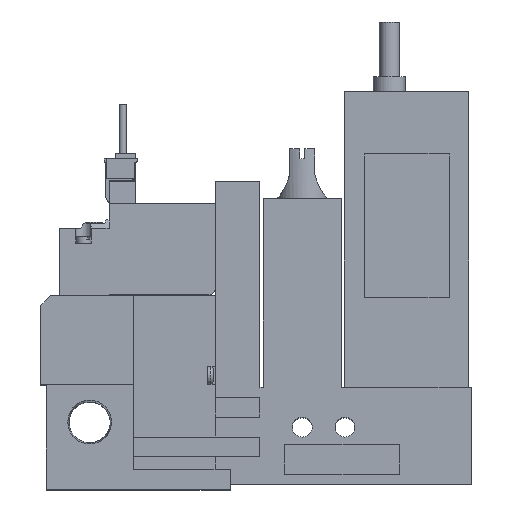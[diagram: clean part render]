
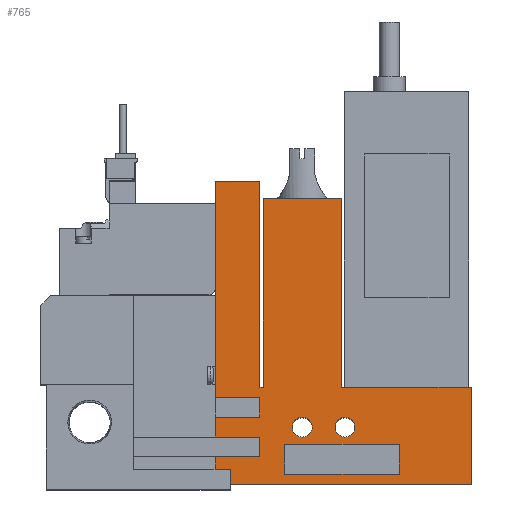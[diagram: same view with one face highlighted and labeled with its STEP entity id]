
A CAD part, top view. The second image highlights one B-rep face of the part: STEP entity #765.
In plain terms, the highlighted planar face has unit normal (0, 0, 1).
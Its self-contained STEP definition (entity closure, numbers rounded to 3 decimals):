
#765=ADVANCED_FACE('',(#1586,#1587,#1588,#1589),#1590,.T.);
#1586=FACE_OUTER_BOUND('',#2587,.T.);
#1587=FACE_BOUND('',#2588,.T.);
#1588=FACE_BOUND('',#2589,.T.);
#1589=FACE_BOUND('',#2590,.T.);
#1590=PLANE('',#2591);
#2587=EDGE_LOOP('',(#5543,#5544,#5545,#5546,#5547,#5548,#5549,#5550,#5551,#5552,#5553,#5554,#5555,#5556,#5557,#5558,#5559,#5560));
#2588=EDGE_LOOP('',(#5561,#5562,#5563,#5564));
#2589=EDGE_LOOP('',(#5565));
#2590=EDGE_LOOP('',(#5566));
#2591=AXIS2_PLACEMENT_3D('',#5567,#5568,#5569);
#5543=ORIENTED_EDGE('',*,*,#7079,.T.);
#5544=ORIENTED_EDGE('',*,*,#7111,.T.);
#5545=ORIENTED_EDGE('',*,*,#6979,.T.);
#5546=ORIENTED_EDGE('',*,*,#7108,.T.);
#5547=ORIENTED_EDGE('',*,*,#7110,.T.);
#5548=ORIENTED_EDGE('',*,*,#6983,.T.);
#5549=ORIENTED_EDGE('',*,*,#7103,.T.);
#5550=ORIENTED_EDGE('',*,*,#6995,.T.);
#5551=ORIENTED_EDGE('',*,*,#7049,.T.);
#5552=ORIENTED_EDGE('',*,*,#7058,.T.);
#5553=ORIENTED_EDGE('',*,*,#7083,.T.);
#5554=ORIENTED_EDGE('',*,*,#6943,.T.);
#5555=ORIENTED_EDGE('',*,*,#7112,.T.);
#5556=ORIENTED_EDGE('',*,*,#6951,.T.);
#5557=ORIENTED_EDGE('',*,*,#7046,.T.);
#5558=ORIENTED_EDGE('',*,*,#7009,.T.);
#5559=ORIENTED_EDGE('',*,*,#7051,.T.);
#5560=ORIENTED_EDGE('',*,*,#6929,.T.);
#5561=ORIENTED_EDGE('',*,*,#7036,.T.);
#5562=ORIENTED_EDGE('',*,*,#7109,.T.);
#5563=ORIENTED_EDGE('',*,*,#7004,.T.);
#5564=ORIENTED_EDGE('',*,*,#7106,.T.);
#5565=ORIENTED_EDGE('',*,*,#6966,.T.);
#5566=ORIENTED_EDGE('',*,*,#7101,.T.);
#5567=CARTESIAN_POINT('',(0.0,0.0,10.0));
#5568=DIRECTION('',(0.0,0.0,1.0));
#5569=DIRECTION('',(1.0,0.0,0.0));
#6929=EDGE_CURVE('',#8444,#8442,#8445,.T.);
#6943=EDGE_CURVE('',#8468,#8466,#8469,.T.);
#6951=EDGE_CURVE('',#8484,#8482,#8485,.T.);
#6966=EDGE_CURVE('',#8513,#8513,#8514,.T.);
#6979=EDGE_CURVE('',#8532,#8537,#8539,.T.);
#6983=EDGE_CURVE('',#8545,#8546,#8547,.T.);
#6995=EDGE_CURVE('',#8566,#8564,#8567,.T.);
#7004=EDGE_CURVE('',#8576,#8581,#8583,.T.);
#7009=EDGE_CURVE('',#8593,#8591,#8594,.T.);
#7036=EDGE_CURVE('',#8636,#8638,#8640,.T.);
#7046=EDGE_CURVE('',#8482,#8593,#8655,.T.);
#7049=EDGE_CURVE('',#8564,#8658,#8660,.T.);
#7051=EDGE_CURVE('',#8591,#8444,#8662,.T.);
#7058=EDGE_CURVE('',#8658,#8673,#8675,.T.);
#7079=EDGE_CURVE('',#8442,#8703,#8705,.T.);
#7083=EDGE_CURVE('',#8673,#8468,#8710,.T.);
#7101=EDGE_CURVE('',#8734,#8734,#8735,.T.);
#7103=EDGE_CURVE('',#8546,#8566,#8737,.T.);
#7106=EDGE_CURVE('',#8581,#8636,#8741,.T.);
#7108=EDGE_CURVE('',#8537,#8742,#8744,.T.);
#7109=EDGE_CURVE('',#8638,#8576,#8745,.T.);
#7110=EDGE_CURVE('',#8742,#8545,#8746,.T.);
#7111=EDGE_CURVE('',#8703,#8532,#8747,.T.);
#7112=EDGE_CURVE('',#8466,#8484,#8748,.T.);
#8442=VERTEX_POINT('',#10852);
#8444=VERTEX_POINT('',#10855);
#8445=LINE('',#10856,#10857);
#8466=VERTEX_POINT('',#10908);
#8468=VERTEX_POINT('',#10911);
#8469=LINE('',#10912,#10913);
#8482=VERTEX_POINT('',#10932);
#8484=VERTEX_POINT('',#10935);
#8485=LINE('',#10936,#10937);
#8513=VERTEX_POINT('',#10978);
#8514=CIRCLE('',#10979,2.0);
#8532=VERTEX_POINT('',#11005);
#8537=VERTEX_POINT('',#11012);
#8539=LINE('',#11015,#11016);
#8545=VERTEX_POINT('',#11025);
#8546=VERTEX_POINT('',#11026);
#8547=LINE('',#11027,#11028);
#8564=VERTEX_POINT('',#11055);
#8566=VERTEX_POINT('',#11058);
#8567=LINE('',#11059,#11060);
#8576=VERTEX_POINT('',#11074);
#8581=VERTEX_POINT('',#11081);
#8583=LINE('',#11084,#11085);
#8591=VERTEX_POINT('',#11094);
#8593=VERTEX_POINT('',#11097);
#8594=LINE('',#11098,#11099);
#8636=VERTEX_POINT('',#11165);
#8638=VERTEX_POINT('',#11168);
#8640=LINE('',#11171,#11172);
#8655=LINE('',#11196,#11197);
#8658=VERTEX_POINT('',#11201);
#8660=LINE('',#11204,#11205);
#8662=LINE('',#11208,#11209);
#8673=VERTEX_POINT('',#11224);
#8675=LINE('',#11227,#11228);
#8703=VERTEX_POINT('',#11275);
#8705=LINE('',#11278,#11279);
#8710=LINE('',#11287,#11288);
#8734=VERTEX_POINT('',#11327);
#8735=CIRCLE('',#11328,2.0);
#8737=LINE('',#11331,#11332);
#8741=LINE('',#11337,#11338);
#8742=VERTEX_POINT('',#11339);
#8744=LINE('',#11342,#11343);
#8745=LINE('',#11344,#11345);
#8746=LINE('',#11346,#11347);
#8747=LINE('',#11348,#11349);
#8748=LINE('',#11350,#11351);
#10852=CARTESIAN_POINT('',(35.1,61.0,10.0));
#10855=CARTESIAN_POINT('',(44.1,61.0,10.0));
#10856=CARTESIAN_POINT('',(44.1,61.0,10.0));
#10857=VECTOR('',#12791,1.0);
#10908=CARTESIAN_POINT('',(60.45,19.5,10.0));
#10911=CARTESIAN_POINT('',(86.6,19.5,10.0));
#10912=CARTESIAN_POINT('',(86.6,19.5,10.0));
#10913=VECTOR('',#12812,1.0);
#10932=CARTESIAN_POINT('',(44.75,57.5,10.0));
#10935=CARTESIAN_POINT('',(60.45,57.5,10.0));
#10936=CARTESIAN_POINT('',(60.45,57.5,10.0));
#10937=VECTOR('',#12820,1.0);
#10978=CARTESIAN_POINT('',(54.6,11.5,10.0));
#10979=AXIS2_PLACEMENT_3D('',#12837,#12838,#12839);
#11005=CARTESIAN_POINT('',(44.1,17.5,10.0));
#11012=CARTESIAN_POINT('',(44.1,13.5,10.0));
#11015=CARTESIAN_POINT('',(44.1,0.0,10.0));
#11016=VECTOR('',#12854,1.0);
#11025=CARTESIAN_POINT('',(35.1,9.5,10.0));
#11026=CARTESIAN_POINT('',(44.1,9.5,10.0));
#11027=CARTESIAN_POINT('',(0.0,9.5,10.0));
#11028=VECTOR('',#12858,1.0);
#11055=CARTESIAN_POINT('',(35.1,5.5,10.0));
#11058=CARTESIAN_POINT('',(44.1,5.5,10.0));
#11059=CARTESIAN_POINT('',(0.0,5.5,10.0));
#11060=VECTOR('',#12870,1.0);
#11074=CARTESIAN_POINT('',(72.1,8.0,10.0));
#11081=CARTESIAN_POINT('',(72.1,2.0,10.0));
#11084=CARTESIAN_POINT('',(72.1,0.0,10.0));
#11085=VECTOR('',#12879,1.0);
#11094=CARTESIAN_POINT('',(44.1,19.5,10.0));
#11097=CARTESIAN_POINT('',(44.75,19.5,10.0));
#11098=CARTESIAN_POINT('',(44.75,19.5,10.0));
#11099=VECTOR('',#12888,1.0);
#11165=CARTESIAN_POINT('',(49.1,2.0,10.0));
#11168=CARTESIAN_POINT('',(49.1,8.0,10.0));
#11171=CARTESIAN_POINT('',(49.1,0.0,10.0));
#11172=VECTOR('',#12915,1.0);
#11196=CARTESIAN_POINT('',(44.75,57.5,10.0));
#11197=VECTOR('',#12925,1.0);
#11201=CARTESIAN_POINT('',(35.1,0.0,10.0));
#11204=CARTESIAN_POINT('',(35.1,0.0,10.0));
#11205=VECTOR('',#12928,1.0);
#11208=CARTESIAN_POINT('',(44.1,19.5,10.0));
#11209=VECTOR('',#12930,1.0);
#11224=CARTESIAN_POINT('',(86.6,0.0,10.0));
#11227=CARTESIAN_POINT('',(18.6,0.0,10.0));
#11228=VECTOR('',#12939,1.0);
#11275=CARTESIAN_POINT('',(35.1,17.5,10.0));
#11278=CARTESIAN_POINT('',(35.1,61.0,10.0));
#11279=VECTOR('',#12960,1.0);
#11287=CARTESIAN_POINT('',(86.6,0.0,10.0));
#11288=VECTOR('',#12964,1.0);
#11327=CARTESIAN_POINT('',(63.2,11.5,10.0));
#11328=AXIS2_PLACEMENT_3D('',#12986,#12987,#12988);
#11331=CARTESIAN_POINT('',(44.1,0.0,10.0));
#11332=VECTOR('',#12990,1.0);
#11337=CARTESIAN_POINT('',(0.0,2.0,10.0));
#11338=VECTOR('',#12995,1.0);
#11339=CARTESIAN_POINT('',(35.1,13.5,10.0));
#11342=CARTESIAN_POINT('',(0.0,13.5,10.0));
#11343=VECTOR('',#12997,1.0);
#11344=CARTESIAN_POINT('',(0.0,8.0,10.0));
#11345=VECTOR('',#12998,1.0);
#11346=CARTESIAN_POINT('',(35.1,0.0,10.0));
#11347=VECTOR('',#12999,1.0);
#11348=CARTESIAN_POINT('',(0.0,17.5,10.0));
#11349=VECTOR('',#13000,1.0);
#11350=CARTESIAN_POINT('',(60.45,19.5,10.0));
#11351=VECTOR('',#13001,1.0);
#12791=DIRECTION('',(-1.0,0.0,0.0));
#12812=DIRECTION('',(-1.0,0.0,0.0));
#12820=DIRECTION('',(-1.0,0.0,0.0));
#12837=CARTESIAN_POINT('',(52.6,11.5,10.0));
#12838=DIRECTION('',(0.0,0.0,-1.0));
#12839=DIRECTION('',(1.0,0.0,0.0));
#12854=DIRECTION('',(0.0,-1.0,0.0));
#12858=DIRECTION('',(1.0,0.0,0.0));
#12870=DIRECTION('',(-1.0,0.0,0.0));
#12879=DIRECTION('',(0.0,-1.0,0.0));
#12888=DIRECTION('',(-1.0,0.0,0.0));
#12915=DIRECTION('',(0.0,1.0,0.0));
#12925=DIRECTION('',(0.0,-1.0,0.0));
#12928=DIRECTION('',(0.0,-1.0,0.0));
#12930=DIRECTION('',(0.0,1.0,0.0));
#12939=DIRECTION('',(1.0,0.0,0.0));
#12960=DIRECTION('',(0.0,-1.0,0.0));
#12964=DIRECTION('',(0.0,1.0,0.0));
#12986=CARTESIAN_POINT('',(61.2,11.5,10.0));
#12987=DIRECTION('',(0.0,0.0,-1.0));
#12988=DIRECTION('',(1.0,0.0,0.0));
#12990=DIRECTION('',(0.0,-1.0,0.0));
#12995=DIRECTION('',(-1.0,0.0,0.0));
#12997=DIRECTION('',(-1.0,0.0,0.0));
#12998=DIRECTION('',(1.0,0.0,0.0));
#12999=DIRECTION('',(0.0,-1.0,0.0));
#13000=DIRECTION('',(1.0,0.0,0.0));
#13001=DIRECTION('',(0.0,1.0,0.0));
